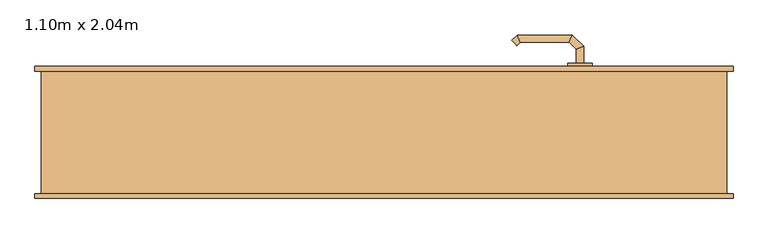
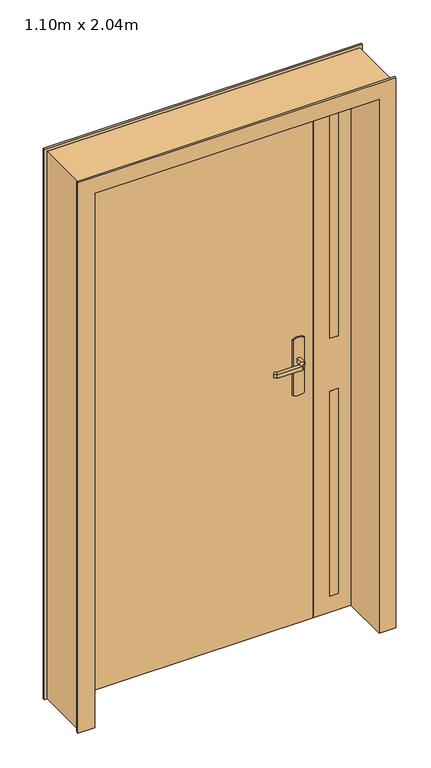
"""IFC4 building model written with IfcOpenShell, lengths in millimetres: door geometry, Tierce  160 : 1.10m x 2.04m."""

from ifc_helpers import new_model, si_unit, point, frame, frame_2d, origin, origin_with_axes, place, context, project, spatial, polyline, circle_curve, ellipse_curve, trimmed, segment, composite_curve, outline, extrude, faceted_brep, source, transform, mapped, element, save
from ifc_brep_helpers import plane_surface, cylinder_surface, advanced_brep


def door_1_10m_x_2_04m_3b420d45(model_context):
    return source(origin(), model_context, "Body", "SolidModel", [
        advanced_brep(
        [(314.0, 63.0, 993.0), (314.0, 63.0, 1007.0), (326.0, 63.0, 1007.0), (326.0, 63.0, 993.0), (314.0, 40.5147955, 993.0), (314.0, 40.5147955, 1007.0), (326.0, 35.5442327, 1007.0), (326.0, 35.5442327, 993.0), (302.5147186, 29.0295141, 993.0), (302.5147186, 29.0295141, 1007.0), (307.4852814, 17.0295141, 1007.0), (307.4852814, 17.0295141, 993.0), (222.4394977, 29.0295141, 993.0), (222.4394977, 29.0295141, 1007.0), (217.468935, 17.0295141, 1007.0), (217.468935, 17.0295141, 993.0), (217.1257892, 34.3432226, 993.0), (208.6405078, 25.8579412, 993.0), (208.6405078, 25.8579412, 1007.0), (217.1257892, 34.3432226, 1007.0)],
        [
            (0, 1),
            (1, 2, circle_curve(frame((320.0, 63.0, 986.9542278), z_axis=(0.0, 1.0, 0.0), x_axis=(1.0, 0.0, 0.0)), 20.9244589)),
            (2, 3),
            (3, 0, circle_curve(frame((320.0, 63.0, 1013.0457722), z_axis=(0.0, 1.0, 0.0), x_axis=(1.0, 0.0, 0.0)), 20.9244589)),
            (0, 4),
            (4, 5),
            (5, 1),
            (5, 6, ellipse_curve(frame((320.0, 38.0295141, 986.9542278), z_axis=(0.38268343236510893, 0.9238795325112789, 0.0), x_axis=(-0.9238795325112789, 0.3826834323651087, 0.0)), 22.6484711, 20.9244589)),
            (6, 2),
            (6, 7),
            (7, 3),
            (7, 4, ellipse_curve(frame((320.0, 38.0295141, 1013.0457722), z_axis=(0.38268343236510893, 0.9238795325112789, 0.0), x_axis=(-0.9238795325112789, 0.3826834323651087, 0.0)), 22.6484711, 20.9244589)),
            (4, 8),
            (8, 9),
            (9, 5),
            (9, 10, ellipse_curve(frame((305.0, 23.0295141, 986.9542278), z_axis=(0.9238795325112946, 0.38268343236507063, 0.0), x_axis=(-0.3826834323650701, 0.9238795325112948, 0.0)), 22.6484711, 20.9244589)),
            (10, 6),
            (10, 11),
            (11, 7),
            (11, 8, ellipse_curve(frame((305.0, 23.0295141, 1013.0457722), z_axis=(0.9238795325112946, 0.38268343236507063, 0.0), x_axis=(-0.3826834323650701, 0.9238795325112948, 0.0)), 22.6484711, 20.9244589)),
            (8, 12),
            (12, 13),
            (13, 9),
            (13, 14, ellipse_curve(frame((219.9542163, 23.0295141, 986.9542278), z_axis=(0.9238795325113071, -0.38268343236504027, 0.0), x_axis=(0.38268343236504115, 0.9238795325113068, 0.0)), 22.6484711, 20.9244589)),
            (14, 10),
            (14, 15),
            (15, 11),
            (15, 12, ellipse_curve(frame((219.9542163, 23.0295141, 1013.0457722), z_axis=(0.9238795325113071, -0.38268343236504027, 0.0), x_axis=(0.38268343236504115, 0.9238795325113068, 0.0)), 22.6484711, 20.9244589)),
            (16, 17, circle_curve(frame((212.8831485, 30.1005819, 1013.0457722), z_axis=(-0.7071067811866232, 0.7071067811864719, 0.0), x_axis=(-0.7071067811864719, -0.7071067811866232, 0.0)), 20.9244589)),
            (17, 18),
            (18, 19, circle_curve(frame((212.8831485, 30.1005819, 986.9542278), z_axis=(-0.7071067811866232, 0.7071067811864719, 0.0), x_axis=(-0.7071067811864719, -0.7071067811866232, 0.0)), 20.9244589)),
            (19, 16),
            (12, 16),
            (19, 13),
            (18, 14),
            (17, 15),
        ],
        [
            plane_surface(frame((329.2195445, 63.0, 1000.0), z_axis=(0.0, 1.0, 0.0), x_axis=(0.0, 0.0, 1.0))),
            plane_surface(frame((314.0, 63.0, 993.0), z_axis=(-1.0, 0.0, 0.0), x_axis=(0.0, -1.0, 0.0))),
            cylinder_surface(frame((320.0, 63.0, 986.9542278), z_axis=(0.0, 1.0, 0.0), x_axis=(1.0, 0.0, 0.0)), 20.9244589),
            plane_surface(frame((326.0, 63.0, 1007.0), z_axis=(1.0, 0.0, 0.0), x_axis=(0.0, -1.0, 0.0))),
            cylinder_surface(frame((320.0, 63.0, 1013.0457722), z_axis=(0.0, 1.0, 0.0), x_axis=(1.0, 0.0, 0.0)), 20.9244589),
            plane_surface(frame((314.0, 40.5147955, 993.0), z_axis=(-0.707106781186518, 0.707106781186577, 0.0), x_axis=(-0.707106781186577, -0.707106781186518, 0.0))),
            cylinder_surface(frame((320.0, 38.0295141, 986.9542278), z_axis=(0.7071067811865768, 0.7071067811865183, 0.0), x_axis=(0.7071067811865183, -0.7071067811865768, 0.0)), 20.9244589),
            plane_surface(frame((326.0, 35.5442327, 1007.0), z_axis=(0.7071067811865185, -0.7071067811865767, 0.0), x_axis=(-0.7071067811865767, -0.7071067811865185, 0.0))),
            cylinder_surface(frame((320.0, 38.0295141, 1013.0457722), z_axis=(0.7071067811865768, 0.7071067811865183, 0.0), x_axis=(0.7071067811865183, -0.7071067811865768, 0.0)), 20.9244589),
            plane_surface(frame((302.5147186, 29.0295141, 993.0), z_axis=(0.0, 1.0, 0.0), x_axis=(-1.0, 0.0, 0.0))),
            cylinder_surface(frame((305.0, 23.0295141, 986.9542278), z_axis=(1.0, 0.0, 0.0), x_axis=(0.0, -1.0, 0.0)), 20.9244589),
            plane_surface(frame((307.4852814, 17.0295141, 1007.0), z_axis=(0.0, -1.0, 0.0), x_axis=(-1.0, 0.0, 0.0))),
            cylinder_surface(frame((305.0, 23.0295141, 1013.0457722), z_axis=(1.0, 0.0, 0.0), x_axis=(0.0, -1.0, 0.0)), 20.9244589),
            plane_surface(frame((212.8831485, 30.1005819, 990.7804555), z_axis=(-0.7071067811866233, 0.7071067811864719, 0.0), x_axis=(-0.7071067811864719, -0.7071067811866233, 0.0))),
            plane_surface(frame((222.4394977, 29.0295141, 993.0), z_axis=(0.707106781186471, 0.7071067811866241, 0.0), x_axis=(-0.7071067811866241, 0.707106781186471, 0.0))),
            cylinder_surface(frame((219.9542163, 23.0295141, 986.9542278), z_axis=(0.7071067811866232, -0.7071067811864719, 0.0), x_axis=(-0.7071067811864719, -0.7071067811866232, 0.0)), 20.9244589),
            plane_surface(frame((217.468935, 17.0295141, 1007.0), z_axis=(-0.7071067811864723, -0.7071067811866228, 0.0), x_axis=(-0.7071067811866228, 0.7071067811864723, 0.0))),
            cylinder_surface(frame((219.9542163, 23.0295141, 1013.0457722), z_axis=(0.7071067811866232, -0.7071067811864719, 0.0), x_axis=(-0.7071067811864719, -0.7071067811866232, 0.0)), 20.9244589),
        ],
        [
            (0, [[1, 2, 3, 4]]),
            (1, [[-1, 5, 6, 7]]),
            (2, [[-2, -7, 8, 9]]),
            (3, [[-3, -9, 10, 11]]),
            (4, [[-4, -11, 12, -5]]),
            (5, [[-6, 13, 14, 15]]),
            (6, [[-8, -15, 16, 17]]),
            (7, [[-10, -17, 18, 19]]),
            (8, [[-12, -19, 20, -13]]),
            (9, [[-14, 21, 22, 23]]),
            (10, [[-16, -23, 24, 25]]),
            (11, [[-18, -25, 26, 27]]),
            (12, [[-20, -27, 28, -21]]),
            (13, [[29, 30, 31, 32]]),
            (14, [[-22, 33, -32, 34]]),
            (15, [[-24, -34, -31, 35]]),
            (16, [[-26, -35, -30, 36]]),
            (17, [[-28, -36, -29, -33]]),
        ],
    ),
        advanced_brep(
        [(326.0, 113.0, 1007.0), (314.0, 113.0, 1007.0), (314.0, 113.0, 993.0), (326.0, 113.0, 993.0), (326.0, 140.6509507, 1007.0), (314.0, 135.680388, 1007.0), (314.0, 135.680388, 993.0), (326.0, 140.6509507, 993.0), (307.62279, 159.0281607, 1007.0), (302.6522273, 147.0281607, 1007.0), (302.6522273, 147.0281607, 993.0), (307.62279, 159.0281607, 993.0), (217.496078, 159.0281607, 1007.0), (222.4666408, 147.0281607, 1007.0), (222.4666408, 147.0281607, 993.0), (217.496078, 159.0281607, 993.0), (208.6676509, 150.1997336, 1007.0), (208.6676509, 150.1997336, 993.0), (217.1529323, 141.7144522, 993.0), (217.1529323, 141.7144522, 1007.0)],
        [
            (0, 1, circle_curve(frame((320.0, 113.0, 986.9542278), z_axis=(0.0, -1.0, 0.0), x_axis=(-1.0, 0.0, 0.0)), 20.9244589)),
            (1, 2),
            (2, 3, circle_curve(frame((320.0, 113.0, 1013.0457722), z_axis=(0.0, -1.0, 0.0), x_axis=(-1.0, 0.0, 0.0)), 20.9244589)),
            (3, 0),
            (0, 4),
            (4, 5, ellipse_curve(frame((320.0, 138.1656693, 986.9542278), z_axis=(0.3826834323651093, -0.9238795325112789, 0.0), x_axis=(-0.9238795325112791, -0.38268343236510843, 0.0)), 22.6484711, 20.9244589)),
            (5, 1),
            (5, 6),
            (6, 2),
            (6, 7, ellipse_curve(frame((320.0, 138.1656693, 1013.0457722), z_axis=(0.3826834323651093, -0.9238795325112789, 0.0), x_axis=(-0.9238795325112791, -0.38268343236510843, 0.0)), 22.6484711, 20.9244589)),
            (7, 3),
            (7, 4),
            (4, 8),
            (8, 9, ellipse_curve(frame((305.1375086, 153.0281607, 986.9542278), z_axis=(0.9238795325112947, -0.38268343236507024, 0.0), x_axis=(-0.3826834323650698, -0.9238795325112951, 0.0)), 22.6484711, 20.9244589)),
            (9, 5),
            (9, 10),
            (10, 6),
            (10, 11, ellipse_curve(frame((305.1375086, 153.0281607, 1013.0457722), z_axis=(0.9238795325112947, -0.38268343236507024, 0.0), x_axis=(-0.3826834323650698, -0.9238795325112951, 0.0)), 22.6484711, 20.9244589)),
            (11, 7),
            (11, 8),
            (8, 12),
            (12, 13, ellipse_curve(frame((219.9813594, 153.0281607, 986.9542278), z_axis=(0.9238795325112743, 0.3826834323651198, 0.0), x_axis=(0.38268343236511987, -0.9238795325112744, 0.0)), 22.6484711, 20.9244589)),
            (13, 9),
            (13, 14),
            (14, 10),
            (14, 15, ellipse_curve(frame((219.9813594, 153.0281607, 1013.0457722), z_axis=(0.9238795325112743, 0.3826834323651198, 0.0), x_axis=(0.38268343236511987, -0.9238795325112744, 0.0)), 22.6484711, 20.9244589)),
            (15, 11),
            (15, 12),
            (16, 17),
            (17, 18, circle_curve(frame((212.9102916, 145.9570929, 1013.0457722), z_axis=(-0.7071067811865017, -0.7071067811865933, 0.0), x_axis=(0.7071067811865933, -0.7071067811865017, 0.0)), 20.9244589)),
            (18, 19),
            (19, 16, circle_curve(frame((212.9102916, 145.9570929, 986.9542278), z_axis=(-0.7071067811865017, -0.7071067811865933, 0.0), x_axis=(0.7071067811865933, -0.7071067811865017, 0.0)), 20.9244589)),
            (12, 16),
            (19, 13),
            (18, 14),
            (17, 15),
        ],
        [
            plane_surface(frame((329.2195445, 113.0, 1000.0), z_axis=(0.0, -1.0, 0.0), x_axis=(0.0, 0.0, -1.0))),
            cylinder_surface(frame((320.0, 113.0, 986.9542278), z_axis=(0.0, -1.0, 0.0), x_axis=(-1.0, 0.0, 0.0)), 20.9244589),
            plane_surface(frame((314.0, 113.0, 1007.0), z_axis=(-1.0, 0.0, 0.0), x_axis=(0.0, 1.0, 0.0))),
            cylinder_surface(frame((320.0, 113.0, 1013.0457722), z_axis=(0.0, -1.0, 0.0), x_axis=(-1.0, 0.0, 0.0)), 20.9244589),
            plane_surface(frame((326.0, 113.0, 993.0), z_axis=(1.0, 0.0, 0.0), x_axis=(0.0, 1.0, 0.0))),
            cylinder_surface(frame((320.0, 138.1656693, 986.9542278), z_axis=(0.7071067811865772, -0.7071067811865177, 0.0), x_axis=(-0.7071067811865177, -0.7071067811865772, 0.0)), 20.9244589),
            plane_surface(frame((314.0, 135.680388, 1007.0), z_axis=(-0.7071067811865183, -0.7071067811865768, 0.0), x_axis=(-0.7071067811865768, 0.7071067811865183, 0.0))),
            cylinder_surface(frame((320.0, 138.1656693, 1013.0457722), z_axis=(0.7071067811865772, -0.7071067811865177, 0.0), x_axis=(-0.7071067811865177, -0.7071067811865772, 0.0)), 20.9244589),
            plane_surface(frame((326.0, 140.6509507, 993.0), z_axis=(0.707106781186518, 0.707106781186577, 0.0), x_axis=(-0.707106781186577, 0.707106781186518, 0.0))),
            cylinder_surface(frame((305.1375086, 153.0281607, 986.9542278), z_axis=(1.0, 0.0, 0.0), x_axis=(0.0, -1.0, 0.0)), 20.9244589),
            plane_surface(frame((302.6522273, 147.0281607, 1007.0), z_axis=(0.0, -1.0, 0.0), x_axis=(-1.0, 0.0, 0.0))),
            cylinder_surface(frame((305.1375086, 153.0281607, 1013.0457722), z_axis=(1.0, 0.0, 0.0), x_axis=(0.0, -1.0, 0.0)), 20.9244589),
            plane_surface(frame((307.62279, 159.0281607, 993.0), z_axis=(0.0, 1.0, 0.0), x_axis=(-1.0, 0.0, 0.0))),
            plane_surface(frame((212.9102916, 145.9570929, 1009.2195445), z_axis=(-0.7071067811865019, -0.7071067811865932, 0.0), x_axis=(-0.7071067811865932, 0.7071067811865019, 0.0))),
            cylinder_surface(frame((219.9813594, 153.0281607, 986.9542278), z_axis=(0.7071067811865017, 0.7071067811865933, 0.0), x_axis=(0.7071067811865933, -0.7071067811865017, 0.0)), 20.9244589),
            plane_surface(frame((222.4666408, 147.0281607, 1007.0), z_axis=(0.7071067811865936, -0.7071067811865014, 0.0), x_axis=(-0.7071067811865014, -0.7071067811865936, 0.0))),
            cylinder_surface(frame((219.9813594, 153.0281607, 1013.0457722), z_axis=(0.7071067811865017, 0.7071067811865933, 0.0), x_axis=(0.7071067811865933, -0.7071067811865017, 0.0)), 20.9244589),
            plane_surface(frame((217.496078, 159.0281607, 993.0), z_axis=(-0.707106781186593, 0.7071067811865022, 0.0), x_axis=(-0.7071067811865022, -0.707106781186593, 0.0))),
        ],
        [
            (0, [[1, 2, 3, 4]]),
            (1, [[-1, 5, 6, 7]]),
            (2, [[-2, -7, 8, 9]]),
            (3, [[-3, -9, 10, 11]]),
            (4, [[-4, -11, 12, -5]]),
            (5, [[-6, 13, 14, 15]]),
            (6, [[-8, -15, 16, 17]]),
            (7, [[-10, -17, 18, 19]]),
            (8, [[-12, -19, 20, -13]]),
            (9, [[-14, 21, 22, 23]]),
            (10, [[-16, -23, 24, 25]]),
            (11, [[-18, -25, 26, 27]]),
            (12, [[-20, -27, 28, -21]]),
            (13, [[29, 30, 31, 32]]),
            (14, [[-22, 33, -32, 34]]),
            (15, [[-24, -34, -31, 35]]),
            (16, [[-26, -35, -30, 36]]),
            (17, [[-28, -36, -29, -33]]),
        ],
    ),
        extrude(outline(composite_curve([segment(polyline([(1080.0, 300.0), (870.0, 300.0)]), True, "CONTINUOUS"), segment(trimmed(circle_curve(frame_2d((904.6410162, 320.0)), 40.0), [point((870.0, 300.0))], [point((870.0, 340.0))], False, "CARTESIAN"), True, "CONTINUOUS"), segment(polyline([(870.0, 340.0), (1080.0, 340.0)]), True, "CONTINUOUS"), segment(trimmed(circle_curve(frame_2d((1045.3589838, 320.0)), 40.0), [point((1080.0, 340.0))], [point((1080.0, 300.0))], False, "CARTESIAN"), True, "CONTINUOUS")], self_intersect=False)), frame((0.0, 63.0, 0.0), z_axis=(0.0, 1.0, 0.0), x_axis=(0.0, 0.0, 1.0)), (0.0, 0.0, 1.0), 5.0),
        extrude(outline(composite_curve([segment(polyline([(870.0, 340.0), (1080.0, 340.0)]), True, "CONTINUOUS"), segment(trimmed(circle_curve(frame_2d((1045.3589838, 320.0)), 40.0), [point((1080.0, 340.0))], [point((1080.0, 300.0))], False, "CARTESIAN"), True, "CONTINUOUS"), segment(polyline([(1080.0, 300.0), (870.0, 300.0)]), True, "CONTINUOUS"), segment(trimmed(circle_curve(frame_2d((904.6410162, 320.0)), 40.0), [point((870.0, 300.0))], [point((870.0, 340.0))], False, "CARTESIAN"), True, "CONTINUOUS")], self_intersect=False)), frame((0.0, 108.0, 0.0), z_axis=(0.0, 1.0, 0.0), x_axis=(0.0, 0.0, 1.0)), (0.0, 0.0, 1.0), 5.0),
        faceted_brep([(-560.0, 100.0, 0.0), (-570.0, 100.0, 0.0), (-570.0, 108.0, 0.0), (-525.0, 108.0, 0.0), (-525.0, 68.0, 0.0), (-510.0, 68.0, 0.0), (-510.0, -108.0, 0.0), (-570.0, -108.0, 0.0), (-570.0, -100.0, 0.0), (-560.0, -100.0, 0.0), (-560.0, -100.0, 2075.0), (-560.0, 100.0, 2075.0), (-570.0, -100.0, 2085.0), (570.0, -100.0, 2085.0), (570.0, -100.0, 0.0), (560.0, -100.0, 0.0), (560.0, -100.0, 2075.0), (-570.0, -108.0, 2085.0), (-510.0, -108.0, 2025.0), (510.0, -108.0, 2025.0), (510.0, -108.0, 0.0), (570.0, -108.0, 0.0), (570.0, -108.0, 2085.0), (-510.0, 68.0, 2025.0), (-525.0, 68.0, 2040.0), (525.0, 68.0, 2040.0), (525.0, 68.0, 0.0), (510.0, 68.0, 0.0), (510.0, 68.0, 2025.0), (-525.0, 108.0, 2040.0), (-570.0, 108.0, 2085.0), (570.0, 108.0, 2085.0), (570.0, 108.0, 0.0), (525.0, 108.0, 0.0), (525.0, 108.0, 2040.0), (-570.0, 100.0, 2085.0), (560.0, 100.0, 2075.0), (560.0, 100.0, 0.0), (570.0, 100.0, 0.0), (570.0, 100.0, 2085.0)], [[[0, 1, 2, 3, 4, 5, 6, 7, 8, 9]], [[9, 10, 11, 0]], [[8, 12, 13, 14, 15, 16, 10, 9]], [[7, 17, 12, 8]], [[6, 18, 19, 20, 21, 22, 17, 7]], [[5, 23, 18, 6]], [[4, 24, 25, 26, 27, 28, 23, 5]], [[3, 29, 24, 4]], [[2, 30, 31, 32, 33, 34, 29, 3]], [[1, 35, 30, 2]], [[0, 11, 36, 37, 38, 39, 35, 1]], [[16, 15, 37, 36]], [[37, 15, 14, 21, 20, 27, 26, 33, 32, 38]], [[22, 21, 14, 13]], [[28, 27, 20, 19]], [[34, 33, 26, 25]], [[39, 38, 32, 31]], [[10, 16, 36, 11]], [[17, 22, 13, 12]], [[23, 28, 19, 18]], [[29, 34, 25, 24]], [[35, 39, 31, 30]]]),
        extrude(outline(polyline([(465.0, 108.0), (465.0, 68.0), (435.0, 68.0), (435.0, 108.0), (465.0, 108.0)])), frame((0.0, 0.0, 60.0), z_axis=(0.0, 0.0, 1.0), x_axis=(1.0, 0.0, 0.0)), (0.0, 0.0, 1.0), 777.5),
        extrude(outline(polyline([(465.0, 108.0), (465.0, 68.0), (435.0, 68.0), (435.0, 108.0), (465.0, 108.0)])), frame((0.0, 0.0, 1037.5), z_axis=(0.0, 0.0, 1.0), x_axis=(1.0, 0.0, 0.0)), (0.0, 0.0, 1.0), 942.5),
        extrude(outline(polyline([(2040.0, 525.0), (2040.0, 375.0), (0.0, 375.0), (0.0, 525.0), (2040.0, 525.0)]), holes=[polyline([(837.5, 435.0), (837.5, 465.0), (60.0, 465.0), (60.0, 435.0), (837.5, 435.0)]), polyline([(1037.5, 465.0), (1037.5, 435.0), (1980.0, 435.0), (1980.0, 465.0), (1037.5, 465.0)])]), frame((0.0, 68.0, 0.0), z_axis=(0.0, 1.0, 0.0), x_axis=(0.0, 0.0, 1.0)), (0.0, 0.0, 1.0), 40.0),
        extrude(outline(polyline([(375.0, 108.0), (375.0, 68.0), (-525.0, 68.0), (-525.0, 108.0), (375.0, 108.0)])), origin_with_axes(), (0.0, 0.0, 1.0), 2040.0),
    ])


if __name__ == "__main__":
    model = new_model("IFC4")
    model_context = context("Model", 3, world=origin())
    ifc_project = project(units=[si_unit("LENGTHUNIT", "METRE", prefix="MILLI")], contexts=[model_context])
    site = spatial("IfcSite", under=ifc_project)
    building = spatial("IfcBuilding", under=site)
    placement = place(None, origin())
    door_1_10m_x_2_04m_shape = door_1_10m_x_2_04m_3b420d45(model_context)
    element("IfcDoor", 1, ObjectType="Tierce  160 : 1.10m x 2.04m", at=placement, inside=building, context=model_context, shape_type="MappedRepresentation", body=[
        mapped(door_1_10m_x_2_04m_shape, transform((0.0, 0.0, 0.0), x_axis=(1.0, 0.0, 0.0), y_axis=(0.0, 1.0, 0.0), z_axis=(0.0, 0.0, 1.0))),
    ])
    save(model, "model.ifc")
